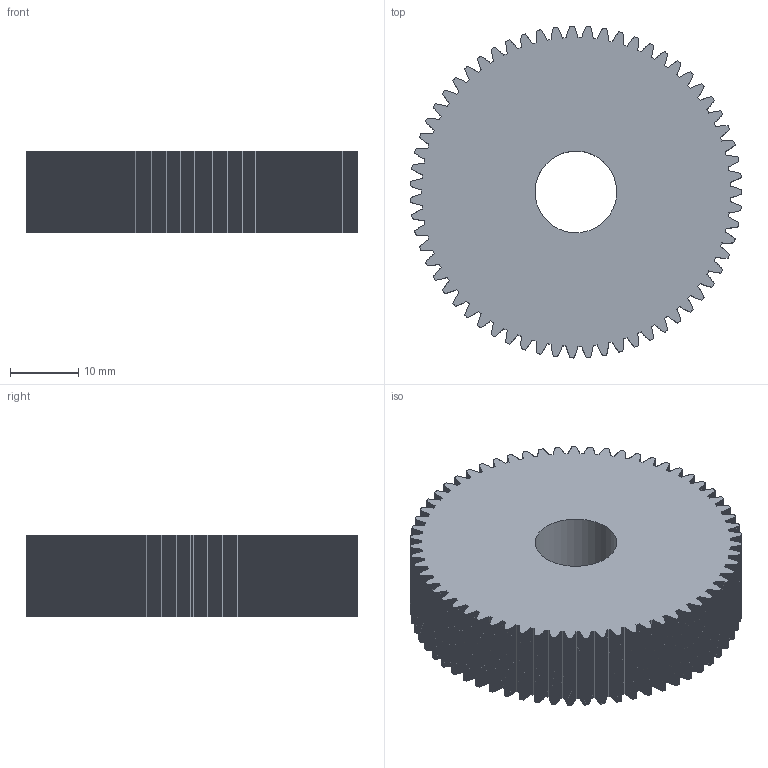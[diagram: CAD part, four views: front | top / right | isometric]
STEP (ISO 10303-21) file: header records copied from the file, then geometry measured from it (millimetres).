
FILE_DESCRIPTION(('FreeCAD Model'),'2;1');
FILE_NAME('Open CASCADE Shape Model','2026-11-05T18:54:03',('FreeCAD'),( 'FreeCAD'),'Open CASCADE STEP processor 7.8','FreeCAD','Unknown');
FILE_SCHEMA(('AUTOMOTIVE_DESIGN { 1 0 10303 214 1 1 1 1 }'));
Length unit declared in the file: millimetre
Products named in the file (1): Open CASCADE STEP translator 7.8 45
Bounding box: 48.73 x 48.75 x 12 mm (x, y, z)
Volume: 19582.8 mm3; surface area: 7315.7 mm2
Topology: 1 solids, 1 shells, 1956 faces, 5862 edges, 3908 vertices
Faces by surface type: plane 1955, cylinder 1
Full cylindrical faces by diameter (mm): 12 x1
Entity records: 64522 total; most frequent: CARTESIAN_POINT 11727, ORIENTED_EDGE 11724, DIRECTION 9778, EDGE_CURVE 5862, LINE 5860, VECTOR 5860, VERTEX_POINT 3908, AXIS2_PLACEMENT_3D 1959
